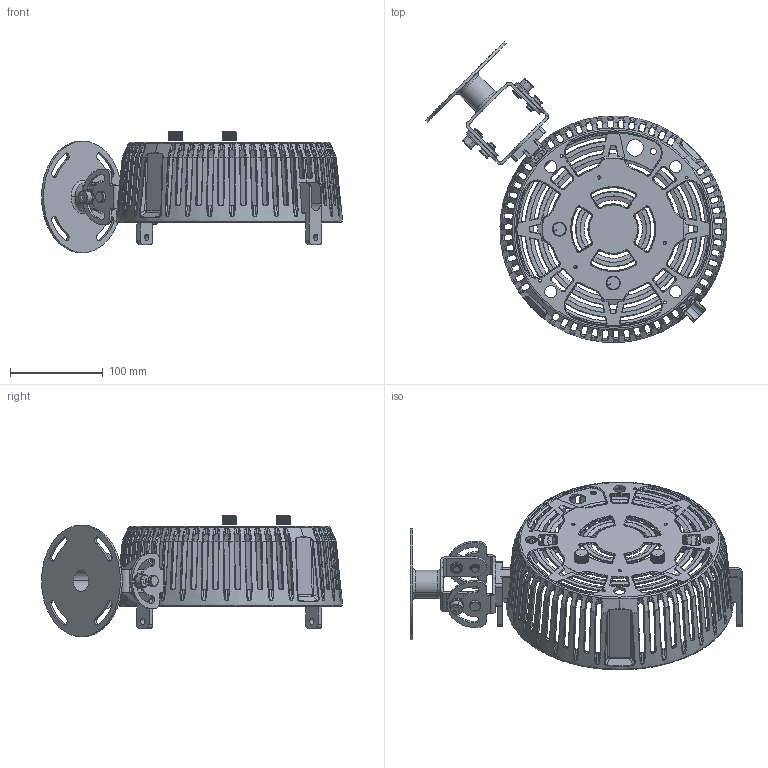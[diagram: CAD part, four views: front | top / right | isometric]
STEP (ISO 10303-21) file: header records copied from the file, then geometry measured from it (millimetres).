
FILE_DESCRIPTION (( 'STEP AP214' ), '1' );
FILE_NAME ('W2KX-PVT-Fixture.STEP', '2024-01-31T02:13:35', ( '' ), ( '' ), 'SwSTEP 2.0', 'SolidWorks 2022', '' );
FILE_SCHEMA (( 'AUTOMOTIVE_DESIGN' ));
Length unit declared in the file: millimetre
Products named in the file (13): W2KX-PVT-Fixture; 5022530-2022-01-10___; 5022496_X2_Yoke Adapter___; 5021926_A1_KNOB, 18T, OD=14.9, ID=6, L=10MM___; 5022499_X2_Single Arm Pivot Base___; 5022642_A2_C Circlip, ID=7.4mm___; ID8,OD16,T1.5 WASHER___; 5022498_X1_Single Arm Pivot___; PIVOT Mount___; 5022497_X1_Single Arm Base___; 5022640_A1_Single Arm Axis, L=15mm___; 5022531_X1_BOTTOM HOUSING FOR W2K&A2K; SCREW, M8 L8 CAP HEAD, HEX SOCKET, SUS, BLACK___
Assembly tree (19 placements, depth 3):
  W2KX-PVT-Fixture
    5022531_X1_BOTTOM HOUSING FOR W2K&A2K
    5022496_X2_Yoke Adapter___  x2
    5022530-2022-01-10___
    5021926_A1_KNOB, 18T, OD=14.9, ID=6, L=10MM___  x2
    SCREW, M8 L8 CAP HEAD, HEX SOCKET, SUS, BLACK___
    PIVOT Mount___
      5022497_X1_Single Arm Base___
      5022498_X1_Single Arm Pivot___
      5022640_A1_Single Arm Axis, L=15mm___  x2
      5022642_A2_C Circlip, ID=7.4mm___  x2
      SCREW, M8 L8 CAP HEAD, HEX SOCKET, SUS, BLACK___  x2
      ID8,OD16,T1.5 WASHER___  x2
    5022499_X2_Single Arm Pivot Base___
Bounding box: 323.66 x 323.66 x 130.6 mm (x, y, z)
Volume: 268798.4 mm3; surface area: 251738.3 mm2
Topology: 17 solids, 17 shells, 3374 faces, 9244 edges, 5812 vertices
Faces by surface type: bspline 1189, plane 1016, cylinder 845, cone 314, torus 10
Entity records: 276101 total; most frequent: CARTESIAN_POINT 144038, ORIENTED_EDGE 26680, DIRECTION 17147, EDGE_CURVE 13340, VERTEX_POINT 8105, AXIS2_PLACEMENT_3D 7362, B_SPLINE_CURVE_WITH_KNOTS 6242, EDGE_LOOP 5259
